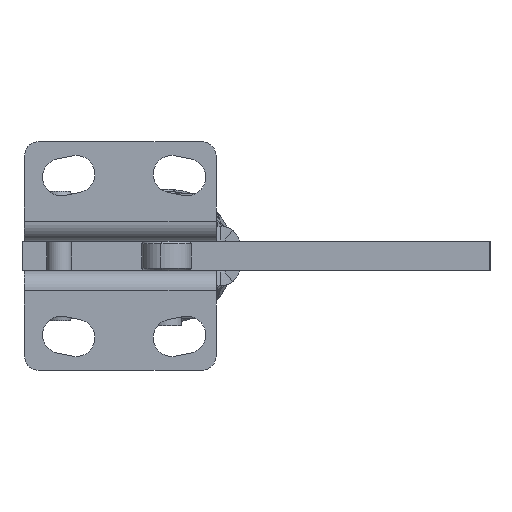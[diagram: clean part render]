
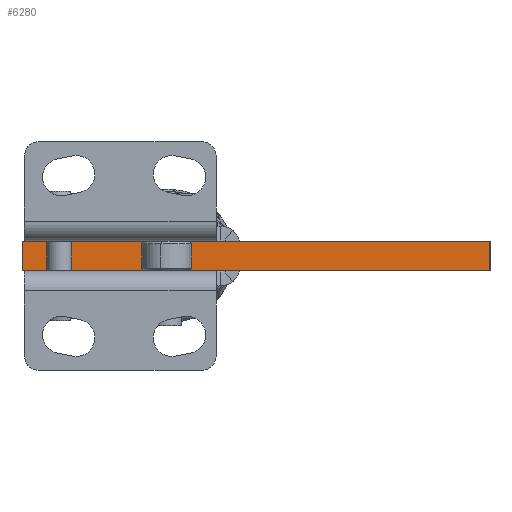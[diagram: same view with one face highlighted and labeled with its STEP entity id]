
A CAD part, front view. The second image highlights one B-rep face of the part: STEP entity #6280.
In plain terms, the highlighted planar face has unit normal (0, -1, 0).
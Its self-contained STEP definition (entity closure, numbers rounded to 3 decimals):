
#1175 = VERTEX_POINT ( 'NONE', #25084 ) ;
#1805 = VERTEX_POINT ( 'NONE', #14529 ) ;
#3650 = EDGE_CURVE ( 'NONE', #1805, #26946, #19571, .T. ) ;
#4411 = EDGE_CURVE ( 'NONE', #1175, #7638, #9053, .T. ) ;
#4491 = VECTOR ( 'NONE', #4605, 1000. ) ;
#4605 = DIRECTION ( 'NONE',  ( 0., 0., -1. ) ) ;
#5804 = DIRECTION ( 'NONE',  ( 1., 0., 0. ) ) ;
#6229 = ORIENTED_EDGE ( 'NONE', *, *, #4411, .F. ) ;
#6280 = ADVANCED_FACE ( 'Face2', ( #24219 ), #8510, .F. ) ;
#6659 = EDGE_CURVE ( 'NONE', #26946, #7638, #28539, .T. ) ;
#7638 = VERTEX_POINT ( 'NONE', #10773 ) ;
#8510 = PLANE ( 'NONE',  #9568 ) ;
#8515 = CARTESIAN_POINT ( 'NONE',  ( -7., -7., 6. ) ) ;
#8584 = ORIENTED_EDGE ( 'NONE', *, *, #3650, .T. ) ;
#9053 = LINE ( 'NONE', #12995, #13670 ) ;
#9568 = AXIS2_PLACEMENT_3D ( 'NONE', #19849, #15205, #13161 ) ;
#10426 = CARTESIAN_POINT ( 'NONE',  ( 87., -7., 6. ) ) ;
#10773 = CARTESIAN_POINT ( 'NONE',  ( 87., -7., 0. ) ) ;
#11672 = ORIENTED_EDGE ( 'NONE', *, *, #6659, .T. ) ;
#12995 = CARTESIAN_POINT ( 'NONE',  ( 87., -7., 6. ) ) ;
#13161 = DIRECTION ( 'NONE',  ( 0., 0., 1. ) ) ;
#13555 = VECTOR ( 'NONE', #5804, 1000. ) ;
#13670 = VECTOR ( 'NONE', #17786, 1000. ) ;
#14529 = CARTESIAN_POINT ( 'NONE',  ( -7., -7., 6. ) ) ;
#15205 = DIRECTION ( 'NONE',  ( 0., 1., 0. ) ) ;
#15455 = DIRECTION ( 'NONE',  ( 1., 0., 0. ) ) ;
#16751 = EDGE_LOOP ( 'NONE', ( #11672, #6229, #17751, #8584 ) ) ;
#17751 = ORIENTED_EDGE ( 'NONE', *, *, #28008, .F. ) ;
#17786 = DIRECTION ( 'NONE',  ( 0., 0., -1. ) ) ;
#19571 = LINE ( 'NONE', #8515, #4491 ) ;
#19672 = CARTESIAN_POINT ( 'NONE',  ( 87., -7., 0. ) ) ;
#19849 = CARTESIAN_POINT ( 'NONE',  ( 87., -7., 6. ) ) ;
#21733 = VECTOR ( 'NONE', #15455, 1000. ) ;
#22371 = CARTESIAN_POINT ( 'NONE',  ( -7., -7., 0. ) ) ;
#24219 = FACE_OUTER_BOUND ( 'NONE', #16751, .T. ) ;
#25084 = CARTESIAN_POINT ( 'NONE',  ( 87., -7., 6. ) ) ;
#26946 = VERTEX_POINT ( 'NONE', #22371 ) ;
#27733 = LINE ( 'NONE', #10426, #13555 ) ;
#28008 = EDGE_CURVE ( 'NONE', #1805, #1175, #27733, .T. ) ;
#28539 = LINE ( 'NONE', #19672, #21733 ) ;
